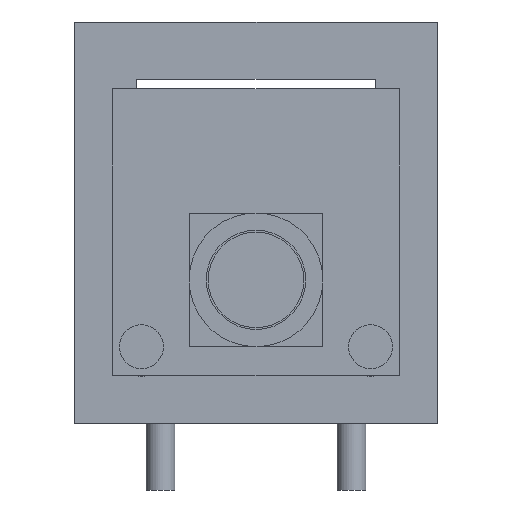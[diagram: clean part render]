
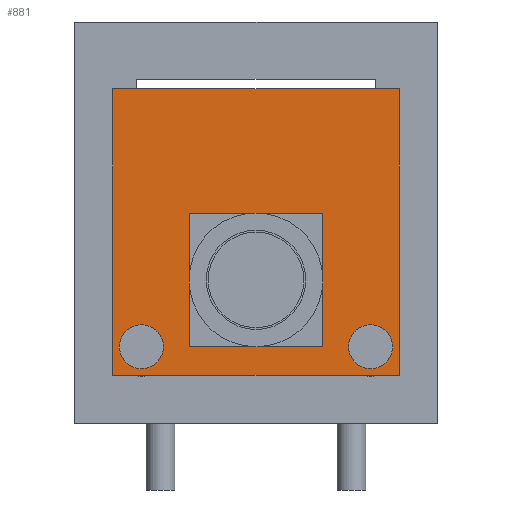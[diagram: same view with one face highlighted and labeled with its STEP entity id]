
A CAD part, front view. The second image highlights one B-rep face of the part: STEP entity #881.
In plain terms, the highlighted planar face has unit normal (0, -1, 0).
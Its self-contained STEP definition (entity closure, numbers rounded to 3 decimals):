
#845 = EDGE_CURVE('',#846,#848,#850,.T.);
#846 = VERTEX_POINT('',#847);
#847 = CARTESIAN_POINT('',(-15.,-127.,113.781));
#848 = VERTEX_POINT('',#849);
#849 = CARTESIAN_POINT('',(-15.,-127.,143.781));
#850 = LINE('',#851,#852);
#851 = CARTESIAN_POINT('',(-15.,-127.,113.781));
#852 = VECTOR('',#853,1.);
#853 = DIRECTION('',(0.,0.,1.));
#881 = ADVANCED_FACE('',(#882,#907,#918),#929,.F.);
#882 = FACE_BOUND('',#883,.F.);
#883 = EDGE_LOOP('',(#884,#892,#893,#901));
#884 = ORIENTED_EDGE('',*,*,#885,.F.);
#885 = EDGE_CURVE('',#846,#886,#888,.T.);
#886 = VERTEX_POINT('',#887);
#887 = CARTESIAN_POINT('',(15.,-127.,113.781));
#888 = LINE('',#889,#890);
#889 = CARTESIAN_POINT('',(-15.,-127.,113.781));
#890 = VECTOR('',#891,1.);
#891 = DIRECTION('',(1.,0.,0.));
#892 = ORIENTED_EDGE('',*,*,#845,.T.);
#893 = ORIENTED_EDGE('',*,*,#894,.T.);
#894 = EDGE_CURVE('',#848,#895,#897,.T.);
#895 = VERTEX_POINT('',#896);
#896 = CARTESIAN_POINT('',(15.,-127.,143.781));
#897 = LINE('',#898,#899);
#898 = CARTESIAN_POINT('',(-15.,-127.,143.781));
#899 = VECTOR('',#900,1.);
#900 = DIRECTION('',(1.,0.,0.));
#901 = ORIENTED_EDGE('',*,*,#902,.F.);
#902 = EDGE_CURVE('',#886,#895,#903,.T.);
#903 = LINE('',#904,#905);
#904 = CARTESIAN_POINT('',(15.,-127.,113.781));
#905 = VECTOR('',#906,1.);
#906 = DIRECTION('',(0.,0.,1.));
#907 = FACE_BOUND('',#908,.F.);
#908 = EDGE_LOOP('',(#909));
#909 = ORIENTED_EDGE('',*,*,#910,.F.);
#910 = EDGE_CURVE('',#911,#911,#913,.T.);
#911 = VERTEX_POINT('',#912);
#912 = CARTESIAN_POINT('',(-12.,-127.,118.381));
#913 = CIRCLE('',#914,1.6);
#914 = AXIS2_PLACEMENT_3D('',#915,#916,#917);
#915 = CARTESIAN_POINT('',(-12.,-127.,116.781));
#916 = DIRECTION('',(0.,1.,0.));
#917 = DIRECTION('',(0.,0.,1.));
#918 = FACE_BOUND('',#919,.F.);
#919 = EDGE_LOOP('',(#920));
#920 = ORIENTED_EDGE('',*,*,#921,.F.);
#921 = EDGE_CURVE('',#922,#922,#924,.T.);
#922 = VERTEX_POINT('',#923);
#923 = CARTESIAN_POINT('',(12.,-127.,118.381));
#924 = CIRCLE('',#925,1.6);
#925 = AXIS2_PLACEMENT_3D('',#926,#927,#928);
#926 = CARTESIAN_POINT('',(12.,-127.,116.781));
#927 = DIRECTION('',(0.,1.,0.));
#928 = DIRECTION('',(0.,0.,1.));
#929 = PLANE('',#930);
#930 = AXIS2_PLACEMENT_3D('',#931,#932,#933);
#931 = CARTESIAN_POINT('',(-15.,-127.,113.781));
#932 = DIRECTION('',(0.,1.,0.));
#933 = DIRECTION('',(0.,0.,1.));
